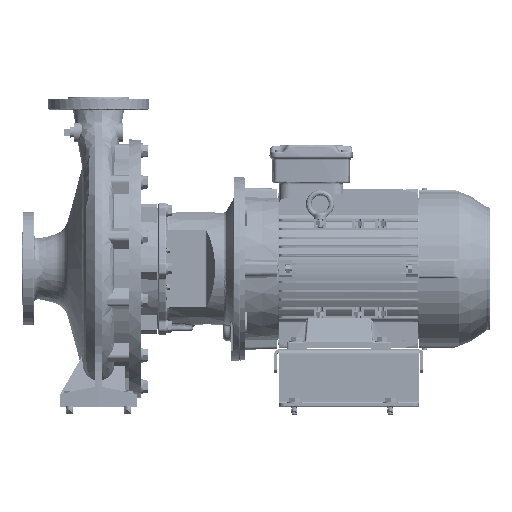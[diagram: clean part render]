
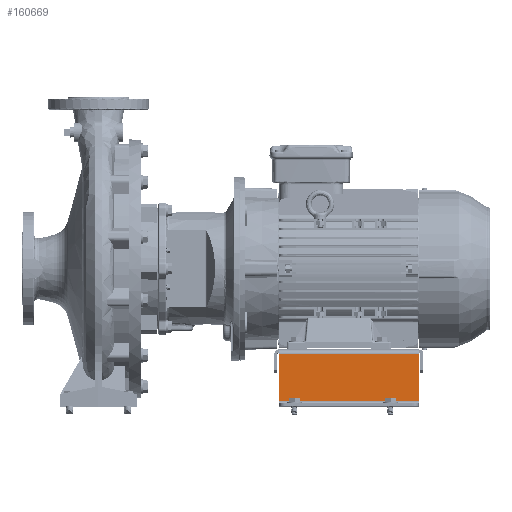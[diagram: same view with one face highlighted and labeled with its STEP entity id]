
A CAD part, top view. The second image highlights one B-rep face of the part: STEP entity #160669.
In plain terms, the highlighted planar face has unit normal (0, 0, 1) as drawn and (1, 0, 0) by its records, which use the part's own axes.
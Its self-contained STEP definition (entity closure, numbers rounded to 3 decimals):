
#2482 = CARTESIAN_POINT ( 'NONE',  ( 310., 8., -236. ) ) ;
#3863 = CARTESIAN_POINT ( 'NONE',  ( 310., 85., -236. ) ) ;
#6523 = EDGE_CURVE ( 'NONE', #166029, #76028, #166695, .T. ) ;
#12131 = CARTESIAN_POINT ( 'NONE',  ( 310., 85., -8. ) ) ;
#14494 = VECTOR ( 'NONE', #47066, 1000. ) ;
#18063 = EDGE_CURVE ( 'NONE', #166029, #135944, #142499, .T. ) ;
#20660 = CARTESIAN_POINT ( 'NONE',  ( 310., -0.001, -8. ) ) ;
#26959 = EDGE_CURVE ( 'NONE', #48580, #135944, #94223, .T. ) ;
#39240 = CARTESIAN_POINT ( 'NONE',  ( 310., 93., -244.001 ) ) ;
#45719 = CARTESIAN_POINT ( 'NONE',  ( 310., 8., -8. ) ) ;
#47066 = DIRECTION ( 'NONE',  ( 0., -1., 0. ) ) ;
#48580 = VERTEX_POINT ( 'NONE', #3863 ) ;
#55399 = ORIENTED_EDGE ( 'NONE', *, *, #100512, .F. ) ;
#64753 = ORIENTED_EDGE ( 'NONE', *, *, #26959, .T. ) ;
#66253 = DIRECTION ( 'NONE',  ( -1., 0., 0. ) ) ;
#75909 = LINE ( 'NONE', #170666, #14494 ) ;
#76028 = VERTEX_POINT ( 'NONE', #169643 ) ;
#77597 = EDGE_LOOP ( 'NONE', ( #55399, #64753, #104394, #110143 ) ) ;
#82231 = VECTOR ( 'NONE', #108680, 1000. ) ;
#94223 = LINE ( 'NONE', #12131, #82231 ) ;
#100077 = DIRECTION ( 'NONE',  ( 0., 1., 0. ) ) ;
#100512 = EDGE_CURVE ( 'NONE', #48580, #76028, #75909, .T. ) ;
#102868 = VECTOR ( 'NONE', #100077, 1000. ) ;
#104394 = ORIENTED_EDGE ( 'NONE', *, *, #18063, .F. ) ;
#105971 = CARTESIAN_POINT ( 'NONE',  ( 310., 85., -8. ) ) ;
#107760 = AXIS2_PLACEMENT_3D ( 'NONE', #39240, #66253, #133981 ) ;
#108680 = DIRECTION ( 'NONE',  ( 0., 0., 1. ) ) ;
#110143 = ORIENTED_EDGE ( 'NONE', *, *, #6523, .T. ) ;
#120425 = PLANE ( 'NONE',  #107760 ) ;
#133981 = DIRECTION ( 'NONE',  ( 0., 0., 1. ) ) ;
#135944 = VERTEX_POINT ( 'NONE', #105971 ) ;
#136663 = FACE_OUTER_BOUND ( 'NONE', #77597, .T. ) ;
#139657 = DIRECTION ( 'NONE',  ( 0., 0., -1. ) ) ;
#142499 = LINE ( 'NONE', #20660, #102868 ) ;
#160669 = ADVANCED_FACE ( 'NONE', ( #136663 ), #120425, .F. ) ;
#166029 = VERTEX_POINT ( 'NONE', #45719 ) ;
#166695 = LINE ( 'NONE', #2482, #173203 ) ;
#169643 = CARTESIAN_POINT ( 'NONE',  ( 310., 8., -236. ) ) ;
#170666 = CARTESIAN_POINT ( 'NONE',  ( 310., -0.001, -236. ) ) ;
#173203 = VECTOR ( 'NONE', #139657, 1000. ) ;
